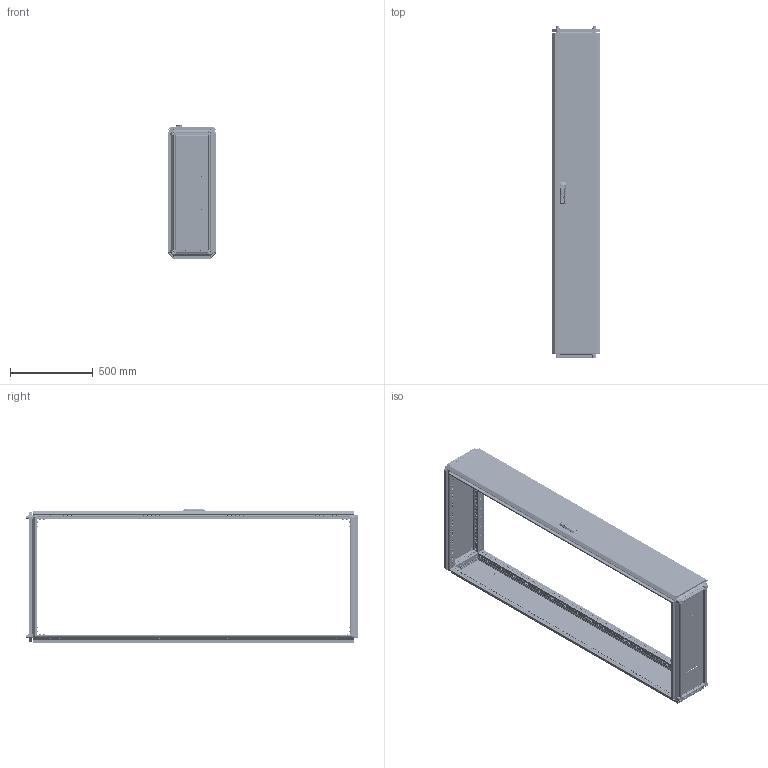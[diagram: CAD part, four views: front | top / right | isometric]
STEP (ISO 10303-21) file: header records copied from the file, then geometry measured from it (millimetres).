
FILE_DESCRIPTION (( 'STEP AP203' ), '1' );
FILE_NAME ('MA1.000.030820.10.00 AleSta2036 Øêàô AleSta 300õ800õ2000.STEP', '2024-08-23T08:20:33', ( '' ), ( '' ), 'SwSTEP 2.0', 'SolidWorks 2021', '' );
FILE_SCHEMA (( 'CONFIG_CONTROL_DESIGN' ));
Length unit declared in the file: millimetre
Products named in the file (50): MA1.100.060620.00.01 Ñîåäèíèòåëü óãëîâîé_00; Âèíò_ðåçüáîâûäàâëèâàþùèé_Ì5õ12_DIN 7500E_00; Ãàéêà ñàìîêîíòðÿùàÿñÿ ñ íåéëîíîâîé âñòàâêîé Ì6 DIN 985, êëàññ ïðî÷íîñòè 8, îöèíêîâàííàÿ ñòàëü_Œ5; MA1.101.060620.20.00 Íèæíÿÿ ïàíåëü 600õ600_300å800; Óïëîòíèòåëü ïàíåëè íèæíåé_300å800; Øïèëüêà Ì6õ12_˜¯¨«ìª  Œ6å12; Øïèëüêà Ì6õ12_˜¯¨«ìª  Œ6å16; MA1.000.030820.10.00 AleSta2036 Øêàô AleSta 300õ800õ2000; MA1.200.060620.31.05 Óãëîâîé óïîð äâåðíîé òÿãè; MA1.200.060620.10.00 AleSta-PR206  Ïàíåëü çàäíÿÿ, äëÿ øêàôîâ ALESTA, 2000 x 600_2000å300; Óïëîòíèòåëü ïàíåëè íèæíåé_   ‚=2000; Íàâåñêà íà êîðïóñ ïîä êëåïêó; MS463-2-3(1); MA1.101.060620.20.02 Çàêðûòèå íèæíåé ïàíåëè 600õ600_300x800; Ãàéêà ñàìîêîíòðÿùàÿñÿ ñ íåéëîíîâîé âñòàâêîé Ì6 DIN 985, êëàññ ïðî÷íîñòè 8, îöèíêîâàííàÿ ñòàëü_Œ6; Âèíò ñàìîíàðåçàþùèé ñ ïîòàéíîé ãîëîâêîé Ì5x14 DIN 7500 M TORX, êëàññ ïðî÷íîñòè 8.8, îöèíêîâàííàÿ ñòàëü_Œ5å12; ﾘ琺矜 01.019 ﾃﾎﾑﾒ11371-78_12; MA1.200.060620.11.00 Ïàíåëü çàäíÿÿ, äëÿ øêàôîâ AleSta, 2000x600_2000å300; MA1.102.060620.00.01 Ïðîôèëü âåðòèêàëüíûé ñâàðíîé_04 L=1898 (‚=2000); MA1.200.060620.31.00 Äâåðü ñïëîøíàÿ äëÿ øêàôîâ ALESTA ÂõØ 2000õ600_2000å300; MA1.102.060620.00.00 AleSta-VG2000 Ñòîéêè âåðòèêàëüíûå, Â=2000ìì  (4øò)_300å800; Âèíò ñ âí. øåñòèãðàííèêîì M12 DIN912_•30; MA1.200.060620.30.00 AleSta-D20M600 Äâåðü ñïëîøíàÿ äëÿ øêàôîâ ALESTA ÂõØ 2000õ600_2000å300; MA1.101.060620.00.02 Ïðîôèëü ïîïåðå÷íûé ñâàðíîé_02 L=698 (˜=800) ; MA1.101.060620.20.01 Ïîëîòíî íèæíåé ïàíåëè 600õ600_300å800; äåðæàòåëü_êðóãëîé_òÿãèRG002-RG1010-2-i-RG1010-3-.stp; Øïèëüêà Ì6õ12_˜¯¨«ìª  Œ6å20; MA1.101.060620.10.00 Êðûøà 600x600_300å800; Øàéáà ñòîïîðíàÿ ñ íàðóæíûìè çóáöàìè SCHNORR, òèï VS öèíêîâûå õëîïüÿ Ì6 O6,4 ART 88121_Œ6; Áîëò øåñòèãðàííûé Ì5õ12 DIN 933, êëàññ ïðî÷íîñòè 8.8, îöèíêîâàííàÿ ñòàëü; Âèíò_ðåçüáîâûäàâëèâàþùèé_Ì5õ12_DIN 7500E_Œ5å12; MA1.200.060620.11.01 Ïîëîòíî çàäíåé ïàíåëè 2000õ600_2000å300; ﾘ琺矜 65ﾃ 019 ﾃﾎﾑﾒ 6402-70_12; Ïðîáêà ïëàñòèêîâàÿ óíèâåðñàëüíàÿ ïîä îòâåðñòèå 4,5 ìì, ñåðèÿ ST, öâåò áåñöâåòíûé – ST4,5; Îñü ïåòëè 4õ52_‚¨­â A.M4x0,5x40 ƒŽ‘’ 11644-75; MA1.101.060620.00.00 AleSta-RB66 Êîìïëåêò êðûøà è îñíîâàíèå_300x800; MA1.101.060620.00.02 Ïðîôèëü ïîïåðå÷íûé ñâàðíîé_03 L=198 (˜=300); 諘蜱齁罻 022 瀁錒瀔隮; MA1.200.060620.31.03 Ðåéêà íà äâåðü ãîðèçîíòàëüíàÿ Ø = 600_˜=300; Âèíò ðåçüáîâûäàâëèâàþùèé Ì6õ12 DIN 7500E_Œ6å10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
Assembly tree (329 placements, depth 4):
  MA1.000.030820.10.00 AleSta2036 Øêàô AleSta 300õ800õ2000
    MA1.101.060620.00.00 AleSta-RB66 Êîìïëåêò êðûøà è îñíîâàíèå_300x800
      MA1.101.060620.00.02 Ïðîôèëü ïîïåðå÷íûé ñâàðíîé_02 L=698 (˜=800)   x4
      MA1.101.060620.00.02 Ïðîôèëü ïîïåðå÷íûé ñâàðíîé_03 L=198 (˜=300)  x4
      MA1.101.060620.10.00 Êðûøà 600x600_300å800
        MA1.101.060620.10.01 Ïîëîòíî êðûøè 600õ600_300x800
        Øïèëüêà Ì6õ12_˜¯¨«ìª  Œ6å12  x4
        Óïëîòíèòåëü ïàíåëè íèæíåé_300å800
      MA1.101.060620.20.00 Íèæíÿÿ ïàíåëü 600õ600_300å800
        MA1.101.060620.20.01 Ïîëîòíî íèæíåé ïàíåëè 600õ600_300å800
        ﾇﾀﾊﾋﾅﾏﾊﾀ ﾃﾀﾅﾗﾍﾀﾟ ﾘﾅﾑﾒﾈﾃﾐﾀﾍﾍﾀﾟ ﾑ ﾓﾌﾅﾍﾜﾘﾅﾍﾍﾛﾌ ﾁﾎﾐﾒﾎﾌ M4 X 11 (0.5-2.5 ﾌﾌ) HEX U-S ﾖﾈﾍﾊ  x4
        MA1.101.060620.20.02 Çàêðûòèå íèæíåé ïàíåëè 600õ600_300x800  x2
        7380-2 ISO Âèíòû ñ ïîëóêðóãëîé ãîëîâêîé ñ ôëàíöåì ñ âíóòðåííèì øåñòèãðàííèêîì Ì4õ10  x4
      Âèíò_ðåçüáîâûäàâëèâàþùèé_Ì5õ12_DIN 7500E_Œ5å12  x8
      MA1.100.060620.00.01 Ñîåäèíèòåëü óãëîâîé_00  x8
      Âèíò ñ âí. øåñòèãðàííèêîì M12 DIN912_•30  x4
      Âèíò ðåçüáîâûäàâëèâàþùèé Ì6õ12 DIN 7500E_Œ6å10  x96
      ﾘ琺矜 01.019 ﾃﾎﾑﾒ11371-78_12  x4
      ﾘ琺矜 65ﾃ 019 ﾃﾎﾑﾒ 6402-70_12  x4
      Øàéáà ñòîïîðíàÿ ñ íàðóæíûìè çóáöàìè SCHNORR, òèï VS öèíêîâûå õëîïüÿ Ì6 O6,4 ART 88121_Œ6  x80
    MA1.102.060620.00.00 AleSta-VG2000 Ñòîéêè âåðòèêàëüíûå, Â=2000ìì  (4øò)_300å800
      MA1.102.060620.00.01 Ïðîôèëü âåðòèêàëüíûé ñâàðíîé_04 L=1898 (‚=2000)  x4
    MA1.200.060620.10.00 AleSta-PR206  Ïàíåëü çàäíÿÿ, äëÿ øêàôîâ ALESTA, 2000 x 600_2000å300
      MA1.200.060620.11.00 Ïàíåëü çàäíÿÿ, äëÿ øêàôîâ AleSta, 2000x600_2000å300
        MA1.200.060620.11.01 Ïîëîòíî çàäíåé ïàíåëè 2000õ600_2000å300
        Óïëîòíèòåëü ïàíåëè íèæíåé_   ‚=2000
        Øïèëüêà Ì6õ12_˜¯¨«ìª  Œ6å12  x4
      Âèíò ñàìîíàðåçàþùèé ñ ïîòàéíîé ãîëîâêîé Ì5x14 DIN 7500 M TORX, êëàññ ïðî÷íîñòè 8.8, îöèíêîâàííàÿ ñòàëü_Œ5å14  x8
    MA1.200.060620.30.00 AleSta-D20M600 Äâåðü ñïëîøíàÿ äëÿ øêàôîâ ALESTA ÂõØ 2000õ600_2000å300
      MA1.200.060620.31.00 Äâåðü ñïëîøíàÿ äëÿ øêàôîâ ALESTA ÂõØ 2000õ600_2000å300
        MA1.200.060620.31.01 Ïîëîòíî äâåðè ñïëîøíîé 2000õ600_2000å300
        Óïëîòíèòåëü ïàíåëè íèæíåé_   ‚=2000
        Øïèëüêà Ì6õ12_˜¯¨«ìª  Œ6å20  x12
        Øïèëüêà Ì6õ12_˜¯¨«ìª  Œ6å16  x4
        Ïåòëÿ íà äâåðü ï-îáðàçíàÿ  x4
      MA1.200.060620.31.03 Ðåéêà íà äâåðü ãîðèçîíòàëüíàÿ Ø = 600_˜=300  x2
      諘蜱齁罻 022 瀁錒瀔隮  x4
      MA1.200.060620.31.02 Ðåéêà íà äâåðü âåðòèêàëüíàÿ Â = 2000_‚ =2000  x2
      äåðæàòåëü_êðóãëîé_òÿãèRG002-RG1010-2-i-RG1010-3-.stp  x2
      òÿãà_lg001-2.STEP_‚=2000  x2
      êðåïëåíèå_êðóãëîé_òÿãè_RG1020-1.stp  x2
      MS463-2-3(1)
      Ãàéêà ñàìîêîíòðÿùàÿñÿ ñ íåéëîíîâîé âñòàâêîé Ì6 DIN 985, êëàññ ïðî÷íîñòè 8, îöèíêîâàííàÿ ñòàëü_Œ6  x12
      Ãàéêà ñàìîêîíòðÿùàÿñÿ ñ íåéëîíîâîé âñòàâêîé Ì6 DIN 985, êëàññ ïðî÷íîñòè 8, îöèíêîâàííàÿ ñòàëü_Œ5  x2
      Áîëò øåñòèãðàííûé Ì5õ12 DIN 933, êëàññ ïðî÷íîñòè 8.8, îöèíêîâàííàÿ ñòàëü  x2
      MA1.200.060620.31.04 ðèãåëü çàìêà äâåðè
      MA1.200.060620.31.05 Óãëîâîé óïîð äâåðíîé òÿãè  x2
      Âèíò_ðåçüáîâûäàâëèâàþùèé_Ì5õ12_DIN 7500E_00  x2
      Íàâåñêà íà êîðïóñ ïîä êëåïêó  x4
      Îñü ïåòëè 4õ52_‚¨­â A.M4x0,5x40 ƒŽ‘’ 11644-75  x4
      Âèíò ñàìîíàðåçàþùèé ñ ïîòàéíîé ãîëîâêîé Ì5x14 DIN 7500 M TORX, êëàññ ïðî÷íîñòè 8.8, îöèíêîâàííàÿ ñòàëü_Œ5å12  x8
  Ïðîáêà ïëàñòèêîâàÿ óíèâåðñàëüíàÿ ïîä îòâåðñòèå 4,5 ìì, ñåðèÿ ST, öâåò áåñöâåòíûé – ST4,5
Bounding box: 292 x 2010.9 x 816.8 mm (x, y, z)
Volume: 7167015.4 mm3; surface area: 8492920.7 mm2
Topology: 356 solids, 370 shells, 23327 faces, 60190 edges, 37712 vertices
Faces by surface type: plane 14045, cylinder 6645, bspline 873, cone 837, torus 829, sphere 98
Entity records: 246752 total; most frequent: CARTESIAN_POINT 79549, ORIENTED_EDGE 32018, DIRECTION 31448, EDGE_CURVE 16026, AXIS2_PLACEMENT_3D 10772, VERTEX_POINT 9981, LINE 9904, VECTOR 9904
